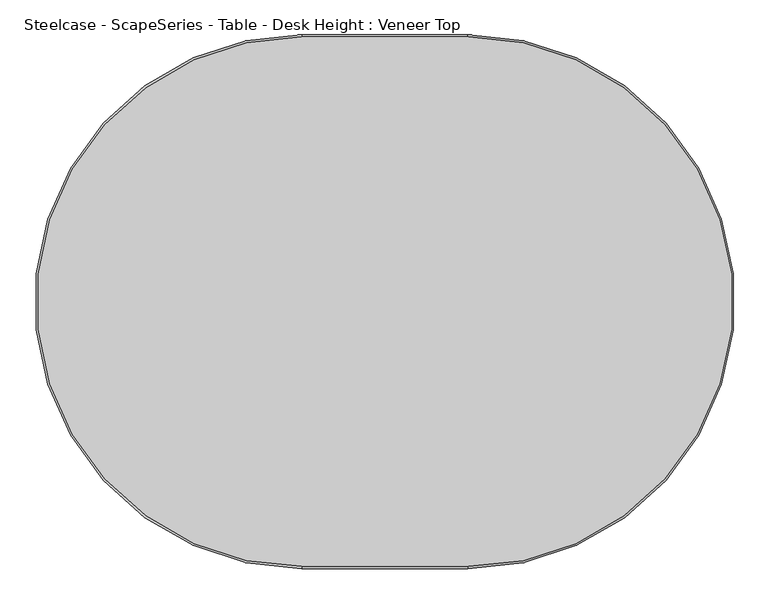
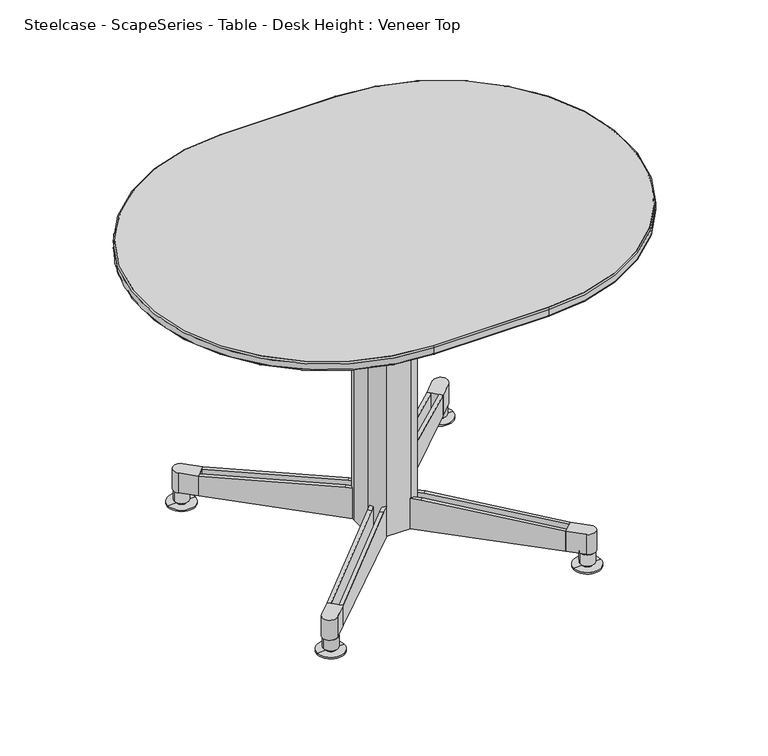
"""IFC4 building model written with IfcOpenShell, lengths in millimetres: furniture geometry, Steelcase - ScapeSeries - Table - Desk Height : Veneer Top."""

from ifc_helpers import new_model, si_unit, point, frame, frame_2d, origin, place, context, project, spatial, polyline, circle_curve, ellipse_curve, trimmed, segment, composite_curve, outline, extrude, source, transform, mapped, element, save
from ifc_brep_helpers import plane_surface, cylinder_surface, revolved_surface, advanced_brep


def steelcase_scapeseries_table_desk_height_veneer_top_569ed9d6(model_context):
    return source(origin(), model_context, "Body", "SolidModel", [
        extrude(outline(composite_curve([segment(polyline([(775.6296182, -670.9730843), (797.8126207, -648.2548062), (826.0804703, -676.5226558)]), True, "CONTINUOUS"), segment(trimmed(circle_curve(frame_2d((814.8551502, -687.7479759)), 15.875), [point((826.0804703, -676.5226558))], [point((803.62983, -698.9732961))], False, "CARTESIAN"), True, "CONTINUOUS"), segment(polyline([(803.62983, -698.9732961), (775.6296182, -670.9730843)]), True, "CONTINUOUS")], self_intersect=False)), frame((0.0, 0.0, 34.5059), z_axis=(0.0, 0.0, 1.0), x_axis=(1.0, 0.0, 0.0)), (0.0, 0.0, 1.0), 46.4657175),
        advanced_brep(
        [(812.6406532, -688.1219197, 0.0), (842.3401939, -688.1219197, 0.0), (782.9411126, -688.1219197, 0.0), (796.6878163, -688.1219197, 34.5059), (828.5934902, -688.1219197, 34.5059), (812.6406532, -688.1219197, 34.5059), (796.6878163, -688.1219197, 9.1059), (828.5934902, -688.1219197, 9.1059), (801.5942376, -688.1219197, 9.1059), (823.6870689, -688.1219197, 9.1059), (801.5942376, -688.1219197, 3.2766), (823.6870689, -688.1219197, 3.2766), (782.9411126, -688.1219197, 3.2766), (842.3401939, -688.1219197, 3.2766)],
        [
            (0, 1),
            (1, 2, circle_curve(frame((812.6406532, -688.1219197, 0.0), z_axis=(0.0, 0.0, -1.0), x_axis=(1.0, 0.0, 0.0)), 29.6995407)),
            (2, 0),
            (2, 1, circle_curve(frame((812.6406532, -688.1219197, 0.0), z_axis=(0.0, 0.0, -1.0), x_axis=(1.0, 0.0, 0.0)), 29.6995407)),
            (3, 4, circle_curve(frame((812.6406532, -688.1219197, 34.5059), z_axis=(0.0, 0.0, 1.0), x_axis=(1.0, 0.0, 0.0)), 15.9528369)),
            (4, 5),
            (5, 3),
            (4, 3, circle_curve(frame((812.6406532, -688.1219197, 34.5059), z_axis=(0.0, 0.0, 1.0), x_axis=(1.0, 0.0, 0.0)), 15.9528369)),
            (6, 7, circle_curve(frame((812.6406532, -688.1219197, 9.1059), z_axis=(0.0, 0.0, 1.0), x_axis=(1.0, 0.0, 0.0)), 15.9528369)),
            (7, 4),
            (3, 6),
            (7, 6, circle_curve(frame((812.6406532, -688.1219197, 9.1059), z_axis=(0.0, 0.0, 1.0), x_axis=(1.0, 0.0, 0.0)), 15.9528369)),
            (8, 9, circle_curve(frame((812.6406532, -688.1219197, 9.1059), z_axis=(0.0, 0.0, 1.0), x_axis=(1.0, 0.0, 0.0)), 11.0464157)),
            (9, 7),
            (6, 8),
            (9, 8, circle_curve(frame((812.6406532, -688.1219197, 9.1059), z_axis=(0.0, 0.0, 1.0), x_axis=(1.0, 0.0, 0.0)), 11.0464157)),
            (10, 11, circle_curve(frame((812.6406532, -688.1219197, 3.2766), z_axis=(0.0, 0.0, 1.0), x_axis=(1.0, 0.0, 0.0)), 11.0464157)),
            (11, 9),
            (8, 10),
            (11, 10, circle_curve(frame((812.6406532, -688.1219197, 3.2766), z_axis=(0.0, 0.0, 1.0), x_axis=(1.0, 0.0, 0.0)), 11.0464157)),
            (12, 13, circle_curve(frame((812.6406532, -688.1219197, 3.2766), z_axis=(0.0, 0.0, 1.0), x_axis=(1.0, 0.0, 0.0)), 29.6995407)),
            (13, 11),
            (10, 12),
            (13, 12, circle_curve(frame((812.6406532, -688.1219197, 3.2766), z_axis=(0.0, 0.0, 1.0), x_axis=(1.0, 0.0, 0.0)), 29.6995407)),
            (1, 13),
            (12, 2),
        ],
        [
            plane_surface(frame((812.6406532, -688.1219197, 0.0), z_axis=(0.0, 0.0, -1.0), x_axis=(1.0, 0.0, 0.0))),
            plane_surface(frame((812.6406532, -688.1219197, 34.5059), z_axis=(0.0, 0.0, 1.0), x_axis=(1.0, 0.0, 0.0))),
            cylinder_surface(frame((812.6406532, -688.1219197, 9.1059), z_axis=(0.0, 0.0, -1.0), x_axis=(1.0, 0.0, 0.0)), 15.9528369),
            plane_surface(frame((812.6406532, -688.1219197, 9.1059), z_axis=(0.0, 0.0, -1.0), x_axis=(1.0, 0.0, 0.0))),
            cylinder_surface(frame((812.6406532, -688.1219197, 9.1059), z_axis=(0.0, 0.0, -1.0), x_axis=(1.0, 0.0, 0.0)), 11.0464157),
            plane_surface(frame((812.6406532, -688.1219197, 3.2766), z_axis=(0.0, 0.0, 1.0), x_axis=(1.0, 0.0, 0.0))),
            cylinder_surface(frame((812.6406532, -688.1219197, 9.1059), z_axis=(0.0, 0.0, -1.0), x_axis=(1.0, 0.0, 0.0)), 29.6995407),
        ],
        [
            (0, [[1, 2, 3]]),
            (0, [[-3, 4, -1]]),
            (1, [[5, 6, 7]]),
            (1, [[8, -7, -6]]),
            (2, [[9, 10, -5, 11]]),
            (2, [[12, -11, -8, -10]]),
            (3, [[13, 14, -9, 15]]),
            (3, [[16, -15, -12, -14]]),
            (4, [[17, 18, -13, 19]]),
            (4, [[20, -19, -16, -18]]),
            (5, [[21, 22, -17, 23]]),
            (5, [[24, -23, -20, -22]]),
            (6, [[-2, 25, -21, 26]]),
            (6, [[-4, -26, -24, -25]]),
        ],
    ),
        advanced_brep(
        [(504.0325184, -352.425, 701.8528138), (478.6325184, -377.825, 701.8528138), (478.6325184, -431.8, 701.8528138), (504.0325184, -457.2, 701.8528138), (558.0075184, -457.2, 701.8528138), (583.4075184, -431.8, 701.8528138), (583.4075184, -377.825, 701.8528138), (558.0075184, -352.425, 701.8528138), (504.0325184, -352.425, 34.5059), (558.0075184, -352.425, 34.5059), (559.6416903, -352.4776238, 34.5059), (777.1247651, -140.1187649, 34.5059), (782.661201, -145.7887949, 34.5059), (568.6468613, -354.7606469, 34.5059), (580.2928069, -365.637879, 34.5059), (793.7824307, -157.1783797, 34.5059), (799.3188665, -162.8484096, 34.5059), (583.1119222, -373.9612055, 34.5059), (583.4075184, -377.825, 34.5059), (583.4075184, -431.8, 34.5059), (582.5724592, -438.2593874, 34.5059), (797.743822, -648.3610015, 34.5059), (792.2073861, -654.0310315, 34.5059), (579.1027628, -445.9474614, 34.5059), (566.3854261, -455.7785459, 34.5059), (781.0861564, -665.4206163, 34.5059), (775.5497206, -671.0906463, 34.5059), (556.680529, -457.3783296, 34.5059), (556.8546569, -457.2, 34.5059), (505.18538, -457.2, 34.5059), (505.3595078, -457.3783296, 34.5059), (286.4903162, -671.0906463, 34.5059), (280.9538804, -665.4206163, 34.5059), (495.6546107, -455.7785459, 34.5059), (482.937274, -445.9474614, 34.5059), (269.8326507, -654.0310315, 34.5059), (264.2962148, -648.3610015, 34.5059), (479.4675776, -438.2593874, 34.5059), (478.6325184, -431.8, 34.5059), (478.6325184, -377.825, 34.5059), (478.9281146, -373.9612055, 34.5059), (262.7211703, -162.8484096, 34.5059), (268.2576061, -157.1783797, 34.5059), (481.7472299, -365.637879, 34.5059), (493.3931755, -354.7606469, 34.5059), (279.3788358, -145.7887949, 34.5059), (284.9152717, -140.1187649, 34.5059), (502.3983465, -352.4776238, 34.5059), (502.3983465, -352.4776238, 104.4067), (493.3931755, -354.7606469, 104.4067), (481.7472299, -365.637879, 104.4067), (478.9281146, -373.9612055, 104.4067), (479.4675776, -438.2593874, 104.4067), (482.937274, -445.9474614, 104.4067), (495.6546107, -455.7785459, 104.4067), (504.0325184, -457.2, 104.4067), (505.18538, -457.2, 104.4067), (556.8546569, -457.2, 104.4067), (558.0075184, -457.2, 104.4067), (566.3854261, -455.7785459, 104.4067), (579.1027628, -445.9474614, 104.4067), (582.5724592, -438.2593874, 104.4067), (583.1119222, -373.9612055, 104.4067), (580.2928069, -365.637879, 104.4067), (568.6468613, -354.7606469, 104.4067), (559.6416903, -352.4776238, 104.4067), (572.1018041, -340.3110883, 104.4067), (777.1247651, -140.1187649, 80.7901888), (782.661201, -145.7887949, 80.7901888), (577.63824, -345.9811182, 104.4067), (588.7594697, -357.370703, 104.4067), (793.7824307, -157.1783797, 80.7901888), (799.3188665, -162.8484096, 80.7901888), (594.2959055, -363.040733, 104.4067), (284.9152717, -140.1187649, 80.7901888), (489.9382327, -340.3110883, 104.4067), (484.4017968, -345.9811182, 104.4067), (279.3788358, -145.7887949, 80.7901888), (268.2576061, -157.1783797, 80.7901888), (473.2805671, -357.370703, 104.4067), (467.7441313, -363.040733, 104.4067), (262.7211703, -162.8484096, 80.7901888), (473.2805671, -455.3766424, 104.4067), (269.8326507, -654.0310315, 80.9716175), (264.2962148, -648.3610015, 80.9716175), (467.7441313, -449.7066124, 104.4067), (505.3595078, -457.3783296, 104.4067), (489.9382327, -472.4362571, 104.4067), (286.4903162, -671.0906463, 80.9716175), (280.9538804, -665.4206163, 80.9716175), (484.4017968, -466.7662272, 104.4067), (792.2073861, -654.0310315, 80.9716175), (588.7594697, -455.3766424, 104.4067), (594.2959055, -449.7066124, 104.4067), (797.743822, -648.3610015, 80.9716175), (775.5497206, -671.0906463, 80.9716175), (572.1018041, -472.4362571, 104.4067), (556.680529, -457.3783296, 104.4067), (577.63824, -466.7662272, 104.4067), (781.0861564, -665.4206163, 80.9716175)],
        [
            (0, 1, circle_curve(frame((504.0325184, -377.825, 701.8528138), z_axis=(0.0, 0.0, 1.0), x_axis=(1.0, 0.0, 0.0)), 25.4)),
            (1, 2),
            (2, 3, circle_curve(frame((504.0325184, -431.8, 701.8528138), z_axis=(0.0, 0.0, 1.0), x_axis=(1.0, 0.0, 0.0)), 25.4)),
            (3, 4),
            (4, 5, circle_curve(frame((558.0075184, -431.8, 701.8528138), z_axis=(0.0, 0.0, 1.0), x_axis=(1.0, 0.0, 0.0)), 25.4)),
            (5, 6),
            (6, 7, circle_curve(frame((558.0075184, -377.825, 701.8528138), z_axis=(0.0, 0.0, 1.0), x_axis=(1.0, 0.0, 0.0)), 25.4)),
            (7, 0),
            (8, 9),
            (9, 10, circle_curve(frame((558.0075184, -377.825, 34.5059), z_axis=(0.0, 0.0, -1.0), x_axis=(1.0, 0.0, 0.0)), 25.4)),
            (10, 11),
            (11, 12),
            (12, 13),
            (13, 14, circle_curve(frame((558.0075184, -377.825, 34.5059), z_axis=(0.0, 0.0, -1.0), x_axis=(1.0, 0.0, 0.0)), 25.4)),
            (14, 15),
            (15, 16),
            (16, 17),
            (17, 18, circle_curve(frame((558.0075184, -377.825, 34.5059), z_axis=(0.0, 0.0, -1.0), x_axis=(1.0, 0.0, 0.0)), 25.4)),
            (18, 19),
            (19, 20, circle_curve(frame((558.0075184, -431.8, 34.5059), z_axis=(0.0, 0.0, -1.0), x_axis=(1.0, 0.0, 0.0)), 25.4)),
            (20, 21),
            (21, 22),
            (22, 23),
            (23, 24, circle_curve(frame((558.0075184, -431.8, 34.5059), z_axis=(0.0, 0.0, -1.0), x_axis=(1.0, 0.0, 0.0)), 25.4)),
            (24, 25),
            (25, 26),
            (26, 27),
            (27, 28),
            (28, 29),
            (29, 30),
            (30, 31),
            (31, 32),
            (32, 33),
            (33, 34, circle_curve(frame((504.0325184, -431.8, 34.5059), z_axis=(0.0, 0.0, -1.0), x_axis=(1.0, 0.0, 0.0)), 25.4)),
            (34, 35),
            (35, 36),
            (36, 37),
            (37, 38, circle_curve(frame((504.0325184, -431.8, 34.5059), z_axis=(0.0, 0.0, -1.0), x_axis=(1.0, 0.0, 0.0)), 25.4)),
            (38, 39),
            (39, 40, circle_curve(frame((504.0325184, -377.825, 34.5059), z_axis=(0.0, 0.0, -1.0), x_axis=(1.0, 0.0, 0.0)), 25.4)),
            (40, 41),
            (41, 42),
            (42, 43),
            (43, 44, circle_curve(frame((504.0325184, -377.825, 34.5059), z_axis=(0.0, 0.0, -1.0), x_axis=(1.0, 0.0, 0.0)), 25.4)),
            (44, 45),
            (45, 46),
            (46, 47),
            (47, 8, circle_curve(frame((504.0325184, -377.825, 34.5059), z_axis=(0.0, 0.0, -1.0), x_axis=(1.0, 0.0, 0.0)), 25.4)),
            (0, 8),
            (47, 48),
            (48, 49, circle_curve(frame((504.0325184, -377.825, 104.4067), z_axis=(0.0, 0.0, 1.0), x_axis=(1.0, 0.0, 0.0)), 25.4)),
            (49, 44),
            (43, 50),
            (50, 51, circle_curve(frame((504.0325184, -377.825, 104.4067), z_axis=(0.0, 0.0, 1.0), x_axis=(1.0, 0.0, 0.0)), 25.4)),
            (51, 40),
            (39, 1),
            (38, 2),
            (37, 52),
            (52, 53, circle_curve(frame((504.0325184, -431.8, 104.4067), z_axis=(0.0, 0.0, 1.0), x_axis=(1.0, 0.0, 0.0)), 25.4)),
            (53, 34),
            (33, 54),
            (54, 55, circle_curve(frame((504.0325184, -431.8, 104.4067), z_axis=(0.0, 0.0, 1.0), x_axis=(1.0, 0.0, 0.0)), 25.4)),
            (55, 3),
            (55, 56),
            (56, 29),
            (28, 57),
            (57, 58),
            (58, 4),
            (58, 59, circle_curve(frame((558.0075184, -431.8, 104.4067), z_axis=(0.0, 0.0, 1.0), x_axis=(1.0, 0.0, 0.0)), 25.4)),
            (59, 24),
            (23, 60),
            (60, 61, circle_curve(frame((558.0075184, -431.8, 104.4067), z_axis=(0.0, 0.0, 1.0), x_axis=(1.0, 0.0, 0.0)), 25.4)),
            (61, 20),
            (19, 5),
            (18, 6),
            (17, 62),
            (62, 63, circle_curve(frame((558.0075184, -377.825, 104.4067), z_axis=(0.0, 0.0, 1.0), x_axis=(1.0, 0.0, 0.0)), 25.4)),
            (63, 14),
            (13, 64),
            (64, 65, circle_curve(frame((558.0075184, -377.825, 104.4067), z_axis=(0.0, 0.0, 1.0), x_axis=(1.0, 0.0, 0.0)), 25.4)),
            (65, 10),
            (9, 7),
            (66, 67),
            (67, 11),
            (65, 66),
            (12, 68),
            (68, 69),
            (69, 64),
            (69, 66),
            (68, 67),
            (70, 71),
            (71, 15),
            (63, 70),
            (16, 72),
            (72, 73),
            (73, 62),
            (73, 70),
            (72, 71),
            (46, 74),
            (74, 75),
            (75, 48),
            (76, 77),
            (77, 45),
            (49, 76),
            (77, 74),
            (76, 75),
            (42, 78),
            (78, 79),
            (79, 50),
            (80, 81),
            (81, 41),
            (51, 80),
            (81, 78),
            (80, 79),
            (82, 83),
            (83, 35),
            (53, 82),
            (36, 84),
            (84, 85),
            (85, 52),
            (85, 82),
            (84, 83),
            (30, 86),
            (86, 87),
            (87, 88),
            (88, 31),
            (32, 89),
            (89, 90),
            (90, 54),
            (56, 86),
            (90, 87),
            (89, 88),
            (22, 91),
            (91, 92),
            (92, 60),
            (93, 94),
            (94, 21),
            (61, 93),
            (94, 91),
            (93, 92),
            (26, 95),
            (95, 96),
            (96, 97),
            (97, 27),
            (98, 99),
            (99, 25),
            (59, 98),
            (99, 95),
            (98, 96),
            (57, 97),
        ],
        [
            plane_surface(frame((529.4325184, -377.825, 701.8528138), z_axis=(0.0, 0.0, 1.0), x_axis=(0.0, 1.0, 0.0))),
            plane_surface(frame((529.4325184, -377.825, 34.5059), z_axis=(0.0, 0.0, -1.0), x_axis=(0.0, -1.0, 0.0))),
            cylinder_surface(frame((504.0325184, -377.825, 34.5059), z_axis=(0.0, 0.0, 1.0), x_axis=(1.0, 0.0, 0.0)), 25.4),
            plane_surface(frame((478.6325184, -377.825, 701.8528138), z_axis=(-1.0, 0.0, 0.0), x_axis=(0.0, 0.0, -1.0))),
            cylinder_surface(frame((504.0325184, -431.8, 34.5059), z_axis=(0.0, 0.0, 1.0), x_axis=(1.0, 0.0, 0.0)), 25.4),
            plane_surface(frame((504.0325184, -457.2, 701.8528138), z_axis=(0.0, -1.0, 0.0), x_axis=(0.0, 0.0, -1.0))),
            cylinder_surface(frame((558.0075184, -431.8, 34.5059), z_axis=(0.0, 0.0, 1.0), x_axis=(1.0, 0.0, 0.0)), 25.4),
            plane_surface(frame((583.4075184, -431.8, 701.8528138), z_axis=(1.0, 0.0, 0.0), x_axis=(0.0, 0.0, -1.0))),
            cylinder_surface(frame((558.0075184, -377.825, 34.5059), z_axis=(0.0, 0.0, 1.0), x_axis=(1.0, 0.0, 0.0)), 25.4),
            plane_surface(frame((558.0075184, -352.425, 701.8528138), z_axis=(0.0, 1.0, 0.0), x_axis=(0.0, 0.0, -1.0))),
            plane_surface(frame((737.5056053, -178.80444, 34.5059), z_axis=(-0.6986276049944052, 0.7154854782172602, 0.0), x_axis=(-0.7154854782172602, -0.6986276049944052, 0.0))),
            plane_surface(frame((743.0420411, -184.47447, 34.5059), z_axis=(0.6986276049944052, -0.7154854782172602, 0.0), x_axis=(0.7154854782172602, 0.6986276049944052, 0.0))),
            plane_surface(frame((556.680529, -355.3690158, 104.4067), z_axis=(0.0, 0.0, 1.0), x_axis=(0.6986276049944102, -0.7154854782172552, 0.0))),
            plane_surface(frame((572.1018041, -340.3110883, 104.4067), z_axis=(0.05876854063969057, 0.05738386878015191, 0.9966209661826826), x_axis=(0.6986276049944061, -0.7154854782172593, 0.0))),
            plane_surface(frame((777.1247651, -140.1187649, 80.7901888), z_axis=(0.7154854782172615, 0.6986276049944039, 0.0), x_axis=(0.6986276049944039, -0.7154854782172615, 0.0))),
            plane_surface(frame((754.1632708, -195.8640548, 34.5059), z_axis=(-0.6986276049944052, 0.71548547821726, 0.0), x_axis=(-0.71548547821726, -0.6986276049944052, 0.0))),
            plane_surface(frame((759.6997067, -201.5340847, 34.5059), z_axis=(0.6986276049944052, -0.71548547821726, 0.0), x_axis=(0.71548547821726, 0.6986276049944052, 0.0))),
            plane_surface(frame((573.3381946, -372.4286306, 104.4067), z_axis=(0.0, 0.0, 1.0000000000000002), x_axis=(0.6986276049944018, -0.7154854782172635, 0.0))),
            plane_surface(frame((588.7594697, -357.370703, 104.4067), z_axis=(0.058768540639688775, 0.05738386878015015, 0.9966209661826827), x_axis=(0.698627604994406, -0.7154854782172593, 0.0))),
            plane_surface(frame((793.7824307, -157.1783797, 80.7901888), z_axis=(0.7154854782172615, 0.6986276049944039, 0.0), x_axis=(0.6986276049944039, -0.7154854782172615, 0.0))),
            plane_surface(frame((284.9152717, -140.1187649, 75.7808986), z_axis=(0.6986276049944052, 0.71548547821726, 0.0), x_axis=(0.0, 0.0, 1.0))),
            plane_surface(frame((279.3788358, -145.7887949, 75.7808986), z_axis=(-0.6986276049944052, -0.71548547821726, 0.0), x_axis=(0.0, 0.0, -1.0))),
            plane_surface(frame((284.9152717, -140.1187649, 34.5059), z_axis=(-0.7154854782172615, 0.6986276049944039, 0.0), x_axis=(-0.6986276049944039, -0.7154854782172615, 0.0))),
            plane_surface(frame((284.9152717, -140.1187649, 80.7901888), z_axis=(-0.05876854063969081, 0.05738386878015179, 0.9966209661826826), x_axis=(-0.6986276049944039, -0.7154854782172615, 0.0))),
            plane_surface(frame((489.9382327, -340.3110883, 104.4067), z_axis=(0.0, 0.0, 1.0000000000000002), x_axis=(-0.6986276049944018, -0.7154854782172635, 0.0))),
            plane_surface(frame((268.2576061, -157.1783797, 75.7808986), z_axis=(0.6986276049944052, 0.71548547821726, 0.0), x_axis=(0.0, 0.0, 1.0))),
            plane_surface(frame((262.7211703, -162.8484096, 75.7808986), z_axis=(-0.6986276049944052, -0.71548547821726, 0.0), x_axis=(0.0, 0.0, -1.0))),
            plane_surface(frame((268.2576061, -157.1783797, 34.5059), z_axis=(-0.7154854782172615, 0.6986276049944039, 0.0), x_axis=(-0.6986276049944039, -0.7154854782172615, 0.0))),
            plane_surface(frame((268.2576061, -157.1783797, 80.7901888), z_axis=(-0.05876854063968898, 0.057383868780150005, 0.9966209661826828), x_axis=(-0.6986276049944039, -0.7154854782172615, 0.0))),
            plane_surface(frame((473.2805671, -357.370703, 104.4067), z_axis=(0.0, 0.0, 1.0000000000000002), x_axis=(-0.6986276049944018, -0.7154854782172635, 0.0))),
            plane_surface(frame((307.876766, -616.8832906, 34.5059), z_axis=(0.6986276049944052, -0.71548547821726, 0.0), x_axis=(0.71548547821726, 0.6986276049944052, 0.0))),
            plane_surface(frame((302.3403301, -611.2132607, 34.5059), z_axis=(-0.6986276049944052, 0.71548547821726, 0.0), x_axis=(-0.71548547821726, -0.6986276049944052, 0.0))),
            plane_surface(frame((488.7018423, -440.3187148, 104.4067), z_axis=(0.0, 0.0, 1.0000000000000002), x_axis=(-0.6986276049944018, 0.7154854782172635, 0.0))),
            plane_surface(frame((473.2805671, -455.3766424, 104.4067), z_axis=(-0.05876854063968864, -0.05738386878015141, 0.9966209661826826), x_axis=(-0.6986276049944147, 0.7154854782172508, 0.0))),
            plane_surface(frame((269.8326507, -654.0310315, 80.9716175), z_axis=(-0.7154854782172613, -0.6986276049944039, 0.0), x_axis=(-0.6986276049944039, 0.7154854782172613, 0.0))),
            plane_surface(frame((324.5344315, -633.9429054, 34.5059), z_axis=(0.6986276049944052, -0.71548547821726, 0.0), x_axis=(0.71548547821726, 0.6986276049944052, 0.0))),
            plane_surface(frame((318.9979957, -628.2728754, 34.5059), z_axis=(-0.6986276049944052, 0.71548547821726, 0.0), x_axis=(-0.71548547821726, -0.6986276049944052, 0.0))),
            plane_surface(frame((505.3595078, -457.3783296, 34.5059), z_axis=(0.7154854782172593, 0.6986276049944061, 0.0), x_axis=(-0.6986276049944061, 0.7154854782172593, 0.0))),
            plane_surface(frame((505.3595078, -457.3783296, 104.4067), z_axis=(0.0, 0.0, 1.0), x_axis=(-0.6986276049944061, 0.7154854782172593, 0.0))),
            plane_surface(frame((489.9382327, -472.4362571, 104.4067), z_axis=(-0.058768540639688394, -0.057383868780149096, 0.9966209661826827), x_axis=(-0.6986276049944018, 0.7154854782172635, 0.0))),
            plane_surface(frame((286.4903162, -671.0906463, 80.9716175), z_axis=(-0.7154854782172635, -0.6986276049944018, 0.0), x_axis=(-0.6986276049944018, 0.7154854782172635, 0.0))),
            plane_surface(frame((792.2073861, -654.0310315, 75.7808986), z_axis=(-0.6986276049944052, -0.71548547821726, 0.0), x_axis=(0.0, 0.0, 1.0))),
            plane_surface(frame((797.743822, -648.3610015, 75.7808986), z_axis=(0.6986276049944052, 0.71548547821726, 0.0), x_axis=(0.0, 0.0, -1.0))),
            plane_surface(frame((792.2073861, -654.0310315, 34.5059), z_axis=(0.7154854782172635, -0.6986276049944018, 0.0), x_axis=(0.6986276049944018, 0.7154854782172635, 0.0))),
            plane_surface(frame((792.2073861, -654.0310315, 80.9716175), z_axis=(0.058768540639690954, -0.057383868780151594, 0.9966209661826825), x_axis=(0.6986276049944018, 0.7154854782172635, 0.0))),
            plane_surface(frame((588.7594697, -455.3766424, 104.4067), z_axis=(0.0, 0.0, 1.0000000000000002), x_axis=(0.6986276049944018, 0.7154854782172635, 0.0))),
            plane_surface(frame((775.5497206, -671.0906463, 75.7808986), z_axis=(-0.6986276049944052, -0.71548547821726, 0.0), x_axis=(0.0, 0.0, 1.0))),
            plane_surface(frame((781.0861564, -665.4206163, 75.7808986), z_axis=(0.6986276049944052, 0.71548547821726, 0.0), x_axis=(0.0, 0.0, -1.0))),
            plane_surface(frame((775.5497206, -671.0906463, 34.5059), z_axis=(0.7154854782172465, -0.698627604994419, 0.0), x_axis=(0.698627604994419, 0.7154854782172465, 0.0))),
            plane_surface(frame((775.5497206, -671.0906463, 80.9716175), z_axis=(0.058768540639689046, -0.057383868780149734, 0.9966209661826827), x_axis=(0.6986276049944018, 0.7154854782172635, 0.0))),
            plane_surface(frame((572.1018041, -472.4362571, 104.4067), z_axis=(0.0, 0.0, 1.0000000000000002), x_axis=(0.6986276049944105, 0.715485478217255, 0.0))),
            plane_surface(frame((556.680529, -457.3783296, 104.4067), z_axis=(-0.7154854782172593, 0.698627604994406, 0.0), x_axis=(0.698627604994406, 0.7154854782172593, 0.0))),
        ],
        [
            (0, [[1, 2, 3, 4, 5, 6, 7, 8]]),
            (1, [[9, 10, 11, 12, 13, 14, 15, 16, 17, 18, 19, 20, 21, 22, 23, 24, 25, 26, 27, 28, 29, 30, 31, 32, 33, 34, 35, 36, 37, 38, 39, 40, 41, 42, 43, 44, 45, 46, 47, 48]]),
            (2, [[-1, 49, -48, 50, 51, 52, -44, 53, 54, 55, -40, 56]]),
            (3, [[-2, -56, -39, 57]]),
            (4, [[-3, -57, -38, 58, 59, 60, -34, 61, 62, 63]]),
            (5, [[-4, -63, 64, 65, -29, 66, 67, 68]]),
            (6, [[-5, -68, 69, 70, -24, 71, 72, 73, -20, 74]]),
            (7, [[-6, -74, -19, 75]]),
            (8, [[-7, -75, -18, 76, 77, 78, -14, 79, 80, 81, -10, 82]]),
            (9, [[-8, -82, -9, -49]]),
            (10, [[83, 84, -11, -81, 85]]),
            (11, [[86, 87, 88, -79, -13]]),
            (12, [[89, -85, -80, -88]]),
            (13, [[-83, -89, -87, 90]]),
            (14, [[-84, -90, -86, -12]]),
            (15, [[91, 92, -15, -78, 93]]),
            (16, [[94, 95, 96, -76, -17]]),
            (17, [[97, -93, -77, -96]]),
            (18, [[-91, -97, -95, 98]]),
            (19, [[-92, -98, -94, -16]]),
            (20, [[99, 100, 101, -50, -47]]),
            (21, [[102, 103, -45, -52, 104]]),
            (22, [[-99, -46, -103, 105]]),
            (23, [[-100, -105, -102, 106]]),
            (24, [[-106, -104, -51, -101]]),
            (25, [[107, 108, 109, -53, -43]]),
            (26, [[110, 111, -41, -55, 112]]),
            (27, [[-107, -42, -111, 113]]),
            (28, [[-108, -113, -110, 114]]),
            (29, [[-114, -112, -54, -109]]),
            (30, [[115, 116, -35, -60, 117]]),
            (31, [[118, 119, 120, -58, -37]]),
            (32, [[121, -117, -59, -120]]),
            (33, [[-115, -121, -119, 122]]),
            (34, [[-116, -122, -118, -36]]),
            (35, [[-31, 123, 124, 125, 126]]),
            (36, [[127, 128, 129, -61, -33]]),
            (37, [[-123, -30, -65, 130]]),
            (38, [[-124, -130, -64, -62, -129, 131]]),
            (39, [[-125, -131, -128, 132]]),
            (40, [[-126, -132, -127, -32]]),
            (41, [[133, 134, 135, -71, -23]]),
            (42, [[136, 137, -21, -73, 138]]),
            (43, [[-133, -22, -137, 139]]),
            (44, [[-134, -139, -136, 140]]),
            (45, [[-140, -138, -72, -135]]),
            (46, [[141, 142, 143, 144, -27]]),
            (47, [[145, 146, -25, -70, 147]]),
            (48, [[-141, -26, -146, 148]]),
            (49, [[-142, -148, -145, 149]]),
            (50, [[-143, -149, -147, -69, -67, 150]]),
            (51, [[-144, -150, -66, -28]]),
        ],
    ),
        extrude(outline(composite_curve([segment(polyline([(286.4104186, -670.9730843), (258.4102068, -698.9732961)]), True, "CONTINUOUS"), segment(trimmed(circle_curve(frame_2d((247.1848866, -687.7479759)), 15.875), [point((258.4102068, -698.9732961))], [point((235.9595665, -676.5226558))], False, "CARTESIAN"), True, "CONTINUOUS"), segment(polyline([(235.9595665, -676.5226558), (264.2274161, -648.2548062), (286.4104186, -670.9730843)]), True, "CONTINUOUS")], self_intersect=False)), frame((0.0, 0.0, 34.5059), z_axis=(0.0, 0.0, 1.0), x_axis=(1.0, 0.0, 0.0)), (0.0, 0.0, 1.0), 46.4657175),
        advanced_brep(
        [(279.0989243, -688.1219197, 3.2766), (219.6998429, -688.1219197, 3.2766), (219.6998429, -688.1219197, 0.0), (279.0989243, -688.1219197, 0.0), (260.4457993, -688.1219197, 3.2766), (238.3529679, -688.1219197, 3.2766), (260.4457993, -688.1219197, 9.1059), (238.3529679, -688.1219197, 9.1059), (265.3522205, -688.1219197, 9.1059), (233.4465467, -688.1219197, 9.1059), (265.3522205, -688.1219197, 34.5059), (233.4465467, -688.1219197, 34.5059), (249.3993836, -688.1219197, 34.5059), (249.3993836, -688.1219197, 0.0)],
        [
            (0, 1, circle_curve(frame((249.3993836, -688.1219197, 3.2766), z_axis=(0.0, 0.0, -1.0), x_axis=(-1.0, 0.0, 0.0)), 29.6995407)),
            (1, 2),
            (2, 3, circle_curve(frame((249.3993836, -688.1219197, 0.0), z_axis=(0.0, 0.0, 1.0), x_axis=(-1.0, 0.0, 0.0)), 29.6995407)),
            (3, 0),
            (1, 0, circle_curve(frame((249.3993836, -688.1219197, 3.2766), z_axis=(0.0, 0.0, -1.0), x_axis=(-1.0, 0.0, 0.0)), 29.6995407)),
            (3, 2, circle_curve(frame((249.3993836, -688.1219197, 0.0), z_axis=(0.0, 0.0, 1.0), x_axis=(-1.0, 0.0, 0.0)), 29.6995407)),
            (4, 5, circle_curve(frame((249.3993836, -688.1219197, 3.2766), z_axis=(0.0, 0.0, -1.0), x_axis=(-1.0, 0.0, 0.0)), 11.0464157)),
            (5, 1),
            (0, 4),
            (5, 4, circle_curve(frame((249.3993836, -688.1219197, 3.2766), z_axis=(0.0, 0.0, -1.0), x_axis=(-1.0, 0.0, 0.0)), 11.0464157)),
            (6, 7, circle_curve(frame((249.3993836, -688.1219197, 9.1059), z_axis=(0.0, 0.0, -1.0), x_axis=(-1.0, 0.0, 0.0)), 11.0464157)),
            (7, 5),
            (4, 6),
            (7, 6, circle_curve(frame((249.3993836, -688.1219197, 9.1059), z_axis=(0.0, 0.0, -1.0), x_axis=(-1.0, 0.0, 0.0)), 11.0464157)),
            (8, 9, circle_curve(frame((249.3993836, -688.1219197, 9.1059), z_axis=(0.0, 0.0, -1.0), x_axis=(-1.0, 0.0, 0.0)), 15.9528369)),
            (9, 7),
            (6, 8),
            (9, 8, circle_curve(frame((249.3993836, -688.1219197, 9.1059), z_axis=(0.0, 0.0, -1.0), x_axis=(-1.0, 0.0, 0.0)), 15.9528369)),
            (10, 11, circle_curve(frame((249.3993836, -688.1219197, 34.5059), z_axis=(0.0, 0.0, -1.0), x_axis=(-1.0, 0.0, 0.0)), 15.9528369)),
            (11, 9),
            (8, 10),
            (11, 10, circle_curve(frame((249.3993836, -688.1219197, 34.5059), z_axis=(0.0, 0.0, -1.0), x_axis=(-1.0, 0.0, 0.0)), 15.9528369)),
            (12, 11),
            (10, 12),
            (2, 13),
            (13, 3),
        ],
        [
            cylinder_surface(frame((249.3993836, -688.1219197, 9.1059), z_axis=(0.0, 0.0, 1.0), x_axis=(-1.0, 0.0, 0.0)), 29.6995407),
            plane_surface(frame((249.3993836, -688.1219197, 3.2766), z_axis=(0.0, 0.0, 1.0), x_axis=(-1.0, 0.0, 0.0))),
            cylinder_surface(frame((249.3993836, -688.1219197, 9.1059), z_axis=(0.0, 0.0, 1.0), x_axis=(-1.0, 0.0, 0.0)), 11.0464157),
            plane_surface(frame((249.3993836, -688.1219197, 9.1059), z_axis=(0.0, 0.0, -1.0), x_axis=(-1.0, 0.0, 0.0))),
            cylinder_surface(frame((249.3993836, -688.1219197, 9.1059), z_axis=(0.0, 0.0, 1.0), x_axis=(-1.0, 0.0, 0.0)), 15.9528369),
            plane_surface(frame((249.3993836, -688.1219197, 34.5059), z_axis=(0.0, 0.0, 1.0), x_axis=(-1.0, 0.0, 0.0))),
            plane_surface(frame((249.3993836, -688.1219197, 0.0), z_axis=(0.0, 0.0, -1.0), x_axis=(-1.0, 0.0, 0.0))),
        ],
        [
            (0, [[1, 2, 3, 4]]),
            (0, [[5, -4, 6, -2]]),
            (1, [[7, 8, -1, 9]]),
            (1, [[10, -9, -5, -8]]),
            (2, [[11, 12, -7, 13]]),
            (2, [[14, -13, -10, -12]]),
            (3, [[15, 16, -11, 17]]),
            (3, [[18, -17, -14, -16]]),
            (4, [[19, 20, -15, 21]]),
            (4, [[22, -21, -18, -20]]),
            (5, [[23, -19, 24]]),
            (5, [[-24, -22, -23]]),
            (6, [[-3, 25, 26]]),
            (6, [[-6, -26, -25]]),
        ],
    ),
        extrude(outline(composite_curve([segment(polyline([(777.1106162, -140.1329138), (805.1108281, -112.132702)]), True, "CONTINUOUS"), segment(trimmed(circle_curve(frame_2d((816.3361482, -123.3580221)), 15.875), [point((805.1108281, -112.132702))], [point((827.5614684, -134.5833423))], False, "CARTESIAN"), True, "CONTINUOUS"), segment(polyline([(827.5614684, -134.5833423), (799.2936188, -162.8511918), (777.1106162, -140.1329138)]), True, "CONTINUOUS")], self_intersect=False)), frame((0.0, 0.0, 34.5059), z_axis=(0.0, 0.0, 1.0), x_axis=(1.0, 0.0, 0.0)), (0.0, 0.0, 1.0), 46.2842888),
        advanced_brep(
        [(784.4221106, -122.9840783, 3.2766), (843.821192, -122.9840783, 3.2766), (843.821192, -122.9840783, 0.0), (784.4221106, -122.9840783, 0.0), (803.0752356, -122.9840783, 3.2766), (825.168067, -122.9840783, 3.2766), (803.0752356, -122.9840783, 9.1059), (825.168067, -122.9840783, 9.1059), (798.1688144, -122.9840783, 9.1059), (830.0744882, -122.9840783, 9.1059), (798.1688144, -122.9840783, 34.5059), (830.0744882, -122.9840783, 34.5059), (814.1216513, -122.9840783, 34.5059), (814.1216513, -122.9840783, 0.0)],
        [
            (0, 1, circle_curve(frame((814.1216513, -122.9840783, 3.2766), z_axis=(0.0, 0.0, -1.0), x_axis=(1.0, 0.0, 0.0)), 29.6995407)),
            (1, 2),
            (2, 3, circle_curve(frame((814.1216513, -122.9840783, 0.0), z_axis=(0.0, 0.0, 1.0), x_axis=(1.0, 0.0, 0.0)), 29.6995407)),
            (3, 0),
            (1, 0, circle_curve(frame((814.1216513, -122.9840783, 3.2766), z_axis=(0.0, 0.0, -1.0), x_axis=(1.0, 0.0, 0.0)), 29.6995407)),
            (3, 2, circle_curve(frame((814.1216513, -122.9840783, 0.0), z_axis=(0.0, 0.0, 1.0), x_axis=(1.0, 0.0, 0.0)), 29.6995407)),
            (4, 5, circle_curve(frame((814.1216513, -122.9840783, 3.2766), z_axis=(0.0, 0.0, -1.0), x_axis=(1.0, 0.0, 0.0)), 11.0464157)),
            (5, 1),
            (0, 4),
            (5, 4, circle_curve(frame((814.1216513, -122.9840783, 3.2766), z_axis=(0.0, 0.0, -1.0), x_axis=(1.0, 0.0, 0.0)), 11.0464157)),
            (6, 7, circle_curve(frame((814.1216513, -122.9840783, 9.1059), z_axis=(0.0, 0.0, -1.0), x_axis=(1.0, 0.0, 0.0)), 11.0464157)),
            (7, 5),
            (4, 6),
            (7, 6, circle_curve(frame((814.1216513, -122.9840783, 9.1059), z_axis=(0.0, 0.0, -1.0), x_axis=(1.0, 0.0, 0.0)), 11.0464157)),
            (8, 9, circle_curve(frame((814.1216513, -122.9840783, 9.1059), z_axis=(0.0, 0.0, -1.0), x_axis=(1.0, 0.0, 0.0)), 15.9528369)),
            (9, 7),
            (6, 8),
            (9, 8, circle_curve(frame((814.1216513, -122.9840783, 9.1059), z_axis=(0.0, 0.0, -1.0), x_axis=(1.0, 0.0, 0.0)), 15.9528369)),
            (10, 11, circle_curve(frame((814.1216513, -122.9840783, 34.5059), z_axis=(0.0, 0.0, -1.0), x_axis=(1.0, 0.0, 0.0)), 15.9528369)),
            (11, 9),
            (8, 10),
            (11, 10, circle_curve(frame((814.1216513, -122.9840783, 34.5059), z_axis=(0.0, 0.0, -1.0), x_axis=(1.0, 0.0, 0.0)), 15.9528369)),
            (12, 11),
            (10, 12),
            (2, 13),
            (13, 3),
        ],
        [
            cylinder_surface(frame((814.1216513, -122.9840783, 9.1059), z_axis=(0.0, 0.0, 1.0), x_axis=(1.0, 0.0, 0.0)), 29.6995407),
            plane_surface(frame((814.1216513, -122.9840783, 3.2766), z_axis=(0.0, 0.0, 1.0), x_axis=(1.0, 0.0, 0.0))),
            cylinder_surface(frame((814.1216513, -122.9840783, 9.1059), z_axis=(0.0, 0.0, 1.0), x_axis=(1.0, 0.0, 0.0)), 11.0464157),
            plane_surface(frame((814.1216513, -122.9840783, 9.1059), z_axis=(0.0, 0.0, -1.0), x_axis=(1.0, 0.0, 0.0))),
            cylinder_surface(frame((814.1216513, -122.9840783, 9.1059), z_axis=(0.0, 0.0, 1.0), x_axis=(1.0, 0.0, 0.0)), 15.9528369),
            plane_surface(frame((814.1216513, -122.9840783, 34.5059), z_axis=(0.0, 0.0, 1.0), x_axis=(1.0, 0.0, 0.0))),
            plane_surface(frame((814.1216513, -122.9840783, 0.0), z_axis=(0.0, 0.0, -1.0), x_axis=(1.0, 0.0, 0.0))),
        ],
        [
            (0, [[1, 2, 3, 4]]),
            (0, [[5, -4, 6, -2]]),
            (1, [[7, 8, -1, 9]]),
            (1, [[10, -9, -5, -8]]),
            (2, [[11, 12, -7, 13]]),
            (2, [[14, -13, -10, -12]]),
            (3, [[15, 16, -11, 17]]),
            (3, [[18, -17, -14, -16]]),
            (4, [[19, 20, -15, 21]]),
            (4, [[22, -21, -18, -20]]),
            (5, [[23, -19, 24]]),
            (5, [[-24, -22, -23]]),
            (6, [[-3, 25, 26]]),
            (6, [[-6, -26, -25]]),
        ],
    ),
        extrude(outline(composite_curve([segment(polyline([(284.9294206, -140.1329138), (262.746418, -162.8511918), (234.4785684, -134.5833423)]), True, "CONTINUOUS"), segment(trimmed(circle_curve(frame_2d((245.7038886, -123.3580221)), 15.875), [point((234.4785684, -134.5833423))], [point((256.9292087, -112.132702))], False, "CARTESIAN"), True, "CONTINUOUS"), segment(polyline([(256.9292087, -112.132702), (284.9294206, -140.1329138)]), True, "CONTINUOUS")], self_intersect=False)), frame((0.0, 0.0, 34.5059), z_axis=(0.0, 0.0, 1.0), x_axis=(1.0, 0.0, 0.0)), (0.0, 0.0, 1.0), 46.2842888),
        advanced_brep(
        [(247.9183855, -122.9840783, 0.0), (218.2188448, -122.9840783, 0.0), (277.6179262, -122.9840783, 0.0), (263.8712224, -122.9840783, 34.5059), (231.9655486, -122.9840783, 34.5059), (247.9183855, -122.9840783, 34.5059), (263.8712224, -122.9840783, 9.1059), (231.9655486, -122.9840783, 9.1059), (258.9648012, -122.9840783, 9.1059), (236.8719698, -122.9840783, 9.1059), (258.9648012, -122.9840783, 3.2766), (236.8719698, -122.9840783, 3.2766), (277.6179262, -122.9840783, 3.2766), (218.2188448, -122.9840783, 3.2766)],
        [
            (0, 1),
            (1, 2, circle_curve(frame((247.9183855, -122.9840783, 0.0), z_axis=(0.0, 0.0, -1.0), x_axis=(-1.0, 0.0, 0.0)), 29.6995407)),
            (2, 0),
            (2, 1, circle_curve(frame((247.9183855, -122.9840783, 0.0), z_axis=(0.0, 0.0, -1.0), x_axis=(-1.0, 0.0, 0.0)), 29.6995407)),
            (3, 4, circle_curve(frame((247.9183855, -122.9840783, 34.5059), z_axis=(0.0, 0.0, 1.0), x_axis=(-1.0, 0.0, 0.0)), 15.9528369)),
            (4, 5),
            (5, 3),
            (4, 3, circle_curve(frame((247.9183855, -122.9840783, 34.5059), z_axis=(0.0, 0.0, 1.0), x_axis=(-1.0, 0.0, 0.0)), 15.9528369)),
            (6, 7, circle_curve(frame((247.9183855, -122.9840783, 9.1059), z_axis=(0.0, 0.0, 1.0), x_axis=(-1.0, 0.0, 0.0)), 15.9528369)),
            (7, 4),
            (3, 6),
            (7, 6, circle_curve(frame((247.9183855, -122.9840783, 9.1059), z_axis=(0.0, 0.0, 1.0), x_axis=(-1.0, 0.0, 0.0)), 15.9528369)),
            (8, 9, circle_curve(frame((247.9183855, -122.9840783, 9.1059), z_axis=(0.0, 0.0, 1.0), x_axis=(-1.0, 0.0, 0.0)), 11.0464157)),
            (9, 7),
            (6, 8),
            (9, 8, circle_curve(frame((247.9183855, -122.9840783, 9.1059), z_axis=(0.0, 0.0, 1.0), x_axis=(-1.0, 0.0, 0.0)), 11.0464157)),
            (10, 11, circle_curve(frame((247.9183855, -122.9840783, 3.2766), z_axis=(0.0, 0.0, 1.0), x_axis=(-1.0, 0.0, 0.0)), 11.0464157)),
            (11, 9),
            (8, 10),
            (11, 10, circle_curve(frame((247.9183855, -122.9840783, 3.2766), z_axis=(0.0, 0.0, 1.0), x_axis=(-1.0, 0.0, 0.0)), 11.0464157)),
            (12, 13, circle_curve(frame((247.9183855, -122.9840783, 3.2766), z_axis=(0.0, 0.0, 1.0), x_axis=(-1.0, 0.0, 0.0)), 29.6995407)),
            (13, 11),
            (10, 12),
            (13, 12, circle_curve(frame((247.9183855, -122.9840783, 3.2766), z_axis=(0.0, 0.0, 1.0), x_axis=(-1.0, 0.0, 0.0)), 29.6995407)),
            (1, 13),
            (12, 2),
        ],
        [
            plane_surface(frame((247.9183855, -122.9840783, 0.0), z_axis=(0.0, 0.0, -1.0), x_axis=(-1.0, 0.0, 0.0))),
            plane_surface(frame((247.9183855, -122.9840783, 34.5059), z_axis=(0.0, 0.0, 1.0), x_axis=(-1.0, 0.0, 0.0))),
            cylinder_surface(frame((247.9183855, -122.9840783, 9.1059), z_axis=(0.0, 0.0, -1.0), x_axis=(-1.0, 0.0, 0.0)), 15.9528369),
            plane_surface(frame((247.9183855, -122.9840783, 9.1059), z_axis=(0.0, 0.0, -1.0), x_axis=(-1.0, 0.0, 0.0))),
            cylinder_surface(frame((247.9183855, -122.9840783, 9.1059), z_axis=(0.0, 0.0, -1.0), x_axis=(-1.0, 0.0, 0.0)), 11.0464157),
            plane_surface(frame((247.9183855, -122.9840783, 3.2766), z_axis=(0.0, 0.0, 1.0), x_axis=(-1.0, 0.0, 0.0))),
            cylinder_surface(frame((247.9183855, -122.9840783, 9.1059), z_axis=(0.0, 0.0, -1.0), x_axis=(-1.0, 0.0, 0.0)), 29.6995407),
        ],
        [
            (0, [[1, 2, 3]]),
            (0, [[-3, 4, -1]]),
            (1, [[5, 6, 7]]),
            (1, [[8, -7, -6]]),
            (2, [[9, 10, -5, 11]]),
            (2, [[12, -11, -8, -10]]),
            (3, [[13, 14, -9, 15]]),
            (3, [[16, -15, -12, -14]]),
            (4, [[17, 18, -13, 19]]),
            (4, [[20, -19, -16, -18]]),
            (5, [[21, 22, -17, 23]]),
            (5, [[24, -23, -20, -22]]),
            (6, [[-2, 25, -21, 26]]),
            (6, [[-4, -26, -24, -25]]),
        ],
    ),
        extrude(outline(composite_curve([segment(polyline([(403.549088, -3.1755215), (657.1455263, -3.1755215)]), True, "CONTINUOUS"), segment(trimmed(circle_curve(frame_2d((657.1455263, -406.4351296)), 403.2596081), [point((657.1455263, -3.1755215))], [point((657.1455263, -809.6947377))], False, "CARTESIAN"), True, "CONTINUOUS"), segment(polyline([(657.1455263, -809.6947377), (403.549088, -809.6947377)]), True, "CONTINUOUS"), segment(trimmed(circle_curve(frame_2d((403.549088, -406.4351296)), 403.2596081), [point((403.549088, -809.6947377))], [point((403.549088, -3.1755215))], False, "CARTESIAN"), True, "CONTINUOUS")], self_intersect=False)), frame((0.0, 0.0, 706.4248), z_axis=(0.0, 0.0, 1.0), x_axis=(1.0, 0.0, 0.0)), (0.0, 0.0, 1.0), 20.0660138),
        advanced_brep(
        [(403.549088, -812.8000242, 709.5998242), (403.549088, -0.0004973, 709.5998242), (403.549088, -3.1755215, 706.4248), (403.549088, -809.625, 706.4248), (403.549088, -812.8000242, 723.3157896), (403.549088, -0.0004973, 723.3157896), (403.549088, -809.625, 726.4908138), (403.549088, -3.1755215, 726.4908138), (656.435316, -809.625, 706.4248), (656.435316, -812.8000242, 709.5998242), (656.435316, -812.8000242, 723.3157896), (656.435316, -809.625, 726.4908138), (656.435316, -0.0004973, 709.5998242), (656.435316, -3.1755215, 706.4248), (656.435316, -0.0004973, 723.3157896), (656.435316, -3.1755215, 726.4908138)],
        [
            (0, 1, circle_curve(frame((403.549088, -406.4002608, 709.5998242), z_axis=(0.0, 0.0, -1.0), x_axis=(0.0, 1.0, 0.0)), 406.3997635)),
            (1, 2, circle_curve(frame((403.549088, -3.1755215, 709.5998242), z_axis=(-1.0, 0.0, 0.0), x_axis=(0.0, -1.0, 0.0)), 3.1750242)),
            (2, 3, circle_curve(frame((403.549088, -406.4002608, 706.4248), z_axis=(0.0, 0.0, 1.0), x_axis=(0.0, 1.0, 0.0)), 403.2247392)),
            (3, 0, circle_curve(frame((403.549088, -809.625, 709.5998242), z_axis=(-1.0, 0.0, 0.0), x_axis=(0.0, 1.0, 0.0)), 3.1750242)),
            (4, 5, circle_curve(frame((403.549088, -406.4002608, 723.3157896), z_axis=(0.0, 0.0, -1.0), x_axis=(0.0, 1.0, 0.0)), 406.3997635)),
            (5, 1),
            (0, 4),
            (6, 7, circle_curve(frame((403.549088, -406.4002608, 726.4908138), z_axis=(0.0, 0.0, -1.0), x_axis=(0.0, 1.0, 0.0)), 403.2247392)),
            (7, 5, circle_curve(frame((403.549088, -3.1755215, 723.3157896), z_axis=(-1.0, 0.0, 0.0), x_axis=(0.0, -1.0, 0.0)), 3.1750242)),
            (4, 6, circle_curve(frame((403.549088, -809.625, 723.3157896), z_axis=(-1.0, 0.0, 0.0), x_axis=(0.0, 1.0, 0.0)), 3.1750242)),
            (2, 7),
            (6, 3),
            (3, 8),
            (8, 9, circle_curve(frame((656.435316, -809.625, 709.5998242), z_axis=(-1.0, 0.0, 0.0), x_axis=(0.0, 1.0, 0.0)), 3.1750242)),
            (9, 0),
            (9, 10),
            (10, 4),
            (10, 11, circle_curve(frame((656.435316, -809.625, 723.3157896), z_axis=(-1.0, 0.0, 0.0), x_axis=(0.0, 1.0, 0.0)), 3.1750242)),
            (11, 6),
            (11, 8),
            (12, 9, circle_curve(frame((656.435316, -406.4002608, 709.5998242), z_axis=(0.0, 0.0, -1.0), x_axis=(0.0, -1.0, 0.0)), 406.3997635)),
            (8, 13, circle_curve(frame((656.435316, -406.4002608, 706.4248), z_axis=(0.0, 0.0, 1.0), x_axis=(0.0, -1.0, 0.0)), 403.2247392)),
            (13, 12, circle_curve(frame((656.435316, -3.1755215, 709.5998242), z_axis=(1.0, 0.0, 0.0), x_axis=(0.0, -1.0, 0.0)), 3.1750242)),
            (14, 10, circle_curve(frame((656.435316, -406.4002608, 723.3157896), z_axis=(0.0, 0.0, -1.0), x_axis=(0.0, -1.0, 0.0)), 406.3997635)),
            (12, 14),
            (15, 11, circle_curve(frame((656.435316, -406.4002608, 726.4908138), z_axis=(0.0, 0.0, -1.0), x_axis=(0.0, -1.0, 0.0)), 403.2247392)),
            (14, 15, circle_curve(frame((656.435316, -3.1755215, 723.3157896), z_axis=(1.0, 0.0, 0.0), x_axis=(0.0, -1.0, 0.0)), 3.1750242)),
            (15, 13),
            (13, 2),
            (1, 12),
            (5, 14),
            (7, 15),
        ],
        [
            revolved_surface(trimmed(ellipse_curve(frame((403.549088, -3.1755215, 709.5998242), z_axis=(1.0, 0.0, 0.0), x_axis=(0.0, -1.0, 0.0)), 3.1750242, 3.1750242), [point((403.549088, -3.1755215, 706.4248))], [point((403.549088, -0.0004973, 709.5998242))], True, "CARTESIAN"), (403.549088, -406.4002608, 139.6974738), (0.0, 0.0, 1.0)),
            cylinder_surface(frame((403.549088, -406.4002608, 139.6974738), z_axis=(0.0, 0.0, 1.0), x_axis=(0.0, 1.0, 0.0)), 406.3997635),
            revolved_surface(trimmed(ellipse_curve(frame((403.549088, -3.1755215, 723.3157896), z_axis=(1.0, 0.0, 0.0), x_axis=(0.0, -1.0, 0.0)), 3.1750242, 3.1750242), [point((403.549088, -0.0004973, 723.3157896))], [point((403.549088, -3.1755215, 726.4908138))], True, "CARTESIAN"), (403.549088, -406.4002608, 139.6974738), (0.0, 0.0, 1.0)),
            revolved_surface(polyline([(403.549088, -3.1755216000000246, 726.4908138), (403.549088, -3.1755216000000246, 706.4248)]), (403.549088, -406.4002608, 139.6974738), (0.0, 0.0, 1.0)),
            cylinder_surface(frame((403.549088, -809.625, 709.5998242), z_axis=(-1.0, 0.0, 0.0), x_axis=(0.0, 1.0, 0.0)), 3.1750242),
            plane_surface(frame((403.549088, -812.8000242, 709.5998242), z_axis=(0.0, -1.0, 0.0), x_axis=(1.0, 0.0, 0.0))),
            cylinder_surface(frame((403.549088, -809.625, 723.3157896), z_axis=(-1.0, 0.0, 0.0), x_axis=(0.0, 1.0, 0.0)), 3.1750242),
            plane_surface(frame((403.549088, -809.625, 726.4908138), z_axis=(0.0, 1.0, 0.0), x_axis=(1.0, 0.0, 0.0))),
            revolved_surface(trimmed(ellipse_curve(frame((656.435316, -809.625, 709.5998242), z_axis=(-1.0, 0.0, 0.0), x_axis=(0.0, 1.0, 0.0)), 3.1750242, 3.1750242), [point((656.435316, -809.625, 706.4248))], [point((656.435316, -812.8000242, 709.5998242))], True, "CARTESIAN"), (656.435316, -406.4002608, 139.6974738), (0.0, 0.0, 1.0)),
            cylinder_surface(frame((656.435316, -406.4002608, 139.6974738), z_axis=(0.0, 0.0, 1.0), x_axis=(0.0, -1.0, 0.0)), 406.3997635),
            revolved_surface(trimmed(ellipse_curve(frame((656.435316, -809.625, 723.3157896), z_axis=(-1.0, 0.0, 0.0), x_axis=(0.0, 1.0, 0.0)), 3.1750242, 3.1750242), [point((656.435316, -812.8000242, 723.3157896))], [point((656.435316, -809.625, 726.4908138))], True, "CARTESIAN"), (656.435316, -406.4002608, 139.6974738), (0.0, 0.0, 1.0)),
            revolved_surface(polyline([(656.435316, -809.625, 726.4908138), (656.435316, -809.625, 706.4248)]), (656.435316, -406.4002608, 139.6974738), (0.0, 0.0, 1.0)),
            cylinder_surface(frame((656.435316, -3.1755215, 709.5998242), z_axis=(1.0, 0.0, 0.0), x_axis=(0.0, -1.0, 0.0)), 3.1750242),
            plane_surface(frame((656.435316, -0.0004973, 709.5998242), z_axis=(0.0, 1.0, 0.0), x_axis=(-1.0, 0.0, 0.0))),
            cylinder_surface(frame((656.435316, -3.1755215, 723.3157896), z_axis=(1.0, 0.0, 0.0), x_axis=(0.0, -1.0, 0.0)), 3.1750242),
            plane_surface(frame((656.435316, -3.1755215, 726.4908138), z_axis=(0.0, -1.0, 0.0), x_axis=(-1.0, 0.0, 0.0))),
        ],
        [
            (0, [[1, 2, 3, 4]]),
            (1, [[5, 6, -1, 7]]),
            (2, [[8, 9, -5, 10]]),
            (3, [[-3, 11, -8, 12]]),
            (4, [[-4, 13, 14, 15]]),
            (5, [[-7, -15, 16, 17]]),
            (6, [[-10, -17, 18, 19]]),
            (7, [[-12, -19, 20, -13]]),
            (8, [[21, -14, 22, 23]]),
            (9, [[24, -16, -21, 25]]),
            (10, [[26, -18, -24, 27]]),
            (11, [[-22, -20, -26, 28]]),
            (12, [[-23, 29, -2, 30]]),
            (13, [[-25, -30, -6, 31]]),
            (14, [[-27, -31, -9, 32]]),
            (15, [[-28, -32, -11, -29]]),
        ],
    ),
        extrude(outline(composite_curve([segment(trimmed(circle_curve(frame_2d((632.5201801, -404.8125)), 127.0), [point((632.5201801, -277.8125))], [point((632.5201801, -531.8125))], False, "CARTESIAN"), True, "CONTINUOUS"), segment(polyline([(632.5201801, -531.8125), (429.9870592, -531.8125)]), True, "CONTINUOUS"), segment(trimmed(circle_curve(frame_2d((429.9870592, -404.8125)), 127.0), [point((429.9870592, -531.8125))], [point((429.9870592, -277.8125))], False, "CARTESIAN"), True, "CONTINUOUS"), segment(polyline([(429.9870592, -277.8125), (632.5201801, -277.8125)]), True, "CONTINUOUS")], self_intersect=False)), frame((0.0, 0.0, 701.8528138), z_axis=(0.0, 0.0, 1.0), x_axis=(1.0, 0.0, 0.0)), (0.0, 0.0, 1.0), 4.5719862),
    ])


if __name__ == "__main__":
    model = new_model("IFC4")
    model_context = context("Model", 3, world=origin())
    ifc_project = project(units=[si_unit("LENGTHUNIT", "METRE", prefix="MILLI")], contexts=[model_context])
    site = spatial("IfcSite", under=ifc_project)
    building = spatial("IfcBuilding", under=site)
    placement = place(None, origin())
    steelcase_scapeseries_table_desk_height_veneer_top_shape = steelcase_scapeseries_table_desk_height_veneer_top_569ed9d6(model_context)
    element("IfcFurniture", 1, ObjectType="Steelcase - ScapeSeries - Table - Desk Height : Veneer Top", at=placement, inside=building, context=model_context, shape_type="MappedRepresentation", body=[
        mapped(steelcase_scapeseries_table_desk_height_veneer_top_shape, transform((0.0, 0.0, 0.0), x_axis=(1.0, 0.0, 0.0), y_axis=(0.0, 1.0, 0.0), z_axis=(0.0, 0.0, 1.0))),
    ])
    save(model, "model.ifc")
